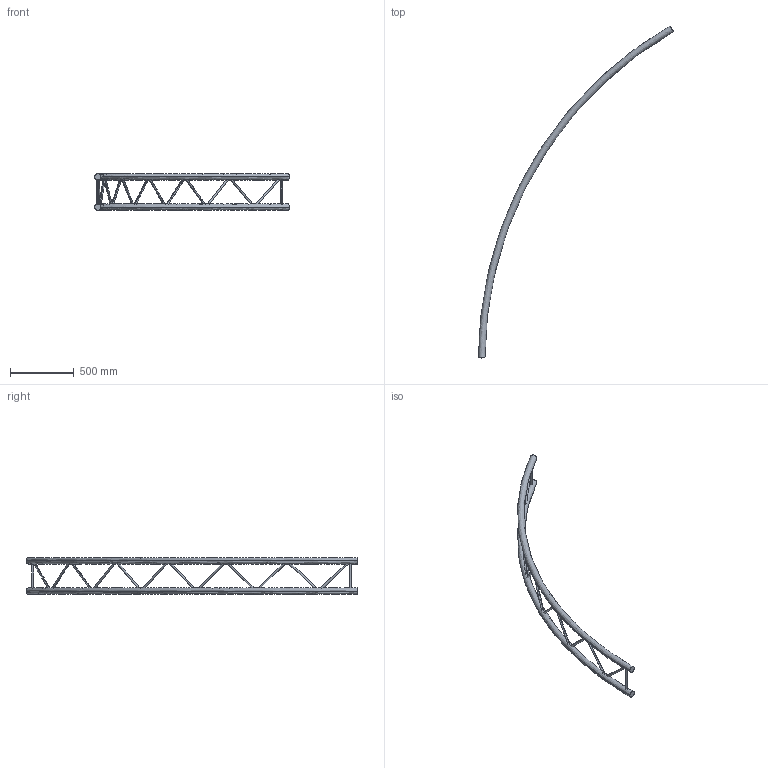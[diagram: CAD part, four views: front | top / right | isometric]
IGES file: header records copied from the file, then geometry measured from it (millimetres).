
Start section: SolidWorks IGES file using analytic representation for surfaces
Global section: file name: K:\BIBLIO\asd_biblio\EX290\Cercles\EXC290V\EXC29600V\EXC29600V.IGS; native system: SolidWorks 2009; preprocessor: SolidWorks 2009; author: des3; date: 091026.101905; units: millimetre
Bounding box: 1525 x 2598.08 x 287 mm (x, y, z)
Surface area: 1191098.6 mm2 (no closed solid volume)
Topology: 0 solids, 0 shells, 50 faces, 1906 edges, 1906 vertices
Faces by surface type: revolution 28, bspline 22
